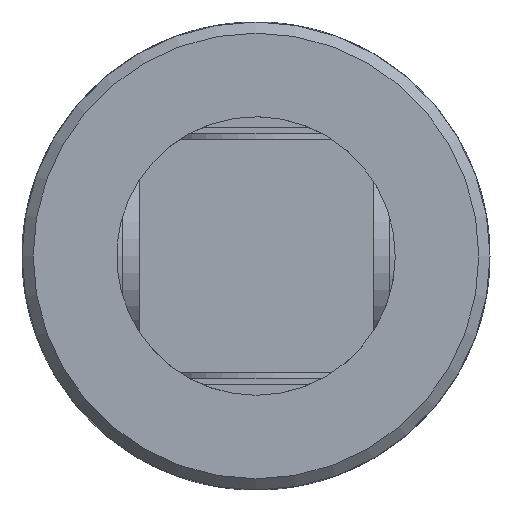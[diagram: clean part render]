
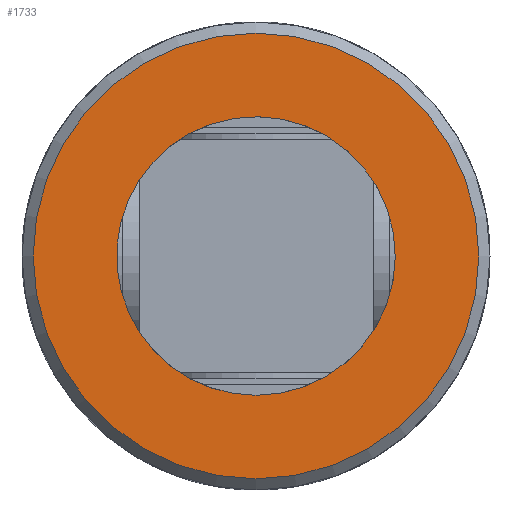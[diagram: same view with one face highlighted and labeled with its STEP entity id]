
A CAD part, front view. The second image highlights one B-rep face of the part: STEP entity #1733.
In plain terms, the highlighted planar face has unit normal (0, -1, 0).
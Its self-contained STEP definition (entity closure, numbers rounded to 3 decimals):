
#202=PLANE('',#1915);
#376=FACE_BOUND('',#609,.T.);
#464=FACE_OUTER_BOUND('',#608,.T.);
#608=EDGE_LOOP('',(#1514));
#609=EDGE_LOOP('',(#1515));
#704=CIRCLE('',#1908,12.5);
#707=CIRCLE('',#1913,20.);
#851=VERTEX_POINT('',#3337);
#855=VERTEX_POINT('',#3380);
#1071=EDGE_CURVE('',#851,#851,#704,.T.);
#1077=EDGE_CURVE('',#855,#855,#707,.T.);
#1514=ORIENTED_EDGE('',*,*,#1077,.F.);
#1515=ORIENTED_EDGE('',*,*,#1071,.T.);
#1733=ADVANCED_FACE('',(#464,#376),#202,.F.);
#1908=AXIS2_PLACEMENT_3D('',#3338,#2295,#2296);
#1913=AXIS2_PLACEMENT_3D('',#3381,#2305,#2306);
#1915=AXIS2_PLACEMENT_3D('',#3605,#2313,#2314);
#2295=DIRECTION('center_axis',(0.,1.,0.));
#2296=DIRECTION('ref_axis',(-1.,0.,0.));
#2305=DIRECTION('center_axis',(0.,1.,0.));
#2306=DIRECTION('ref_axis',(1.,0.,0.));
#2313=DIRECTION('center_axis',(0.,1.,0.));
#2314=DIRECTION('ref_axis',(0.,0.,1.));
#3337=CARTESIAN_POINT('',(12.5,-64.,0.));
#3338=CARTESIAN_POINT('Origin',(0.,-64.,0.));
#3380=CARTESIAN_POINT('',(-20.,-64.,0.));
#3381=CARTESIAN_POINT('Origin',(0.,-64.,0.));
#3605=CARTESIAN_POINT('Origin',(0.,-64.,0.));
